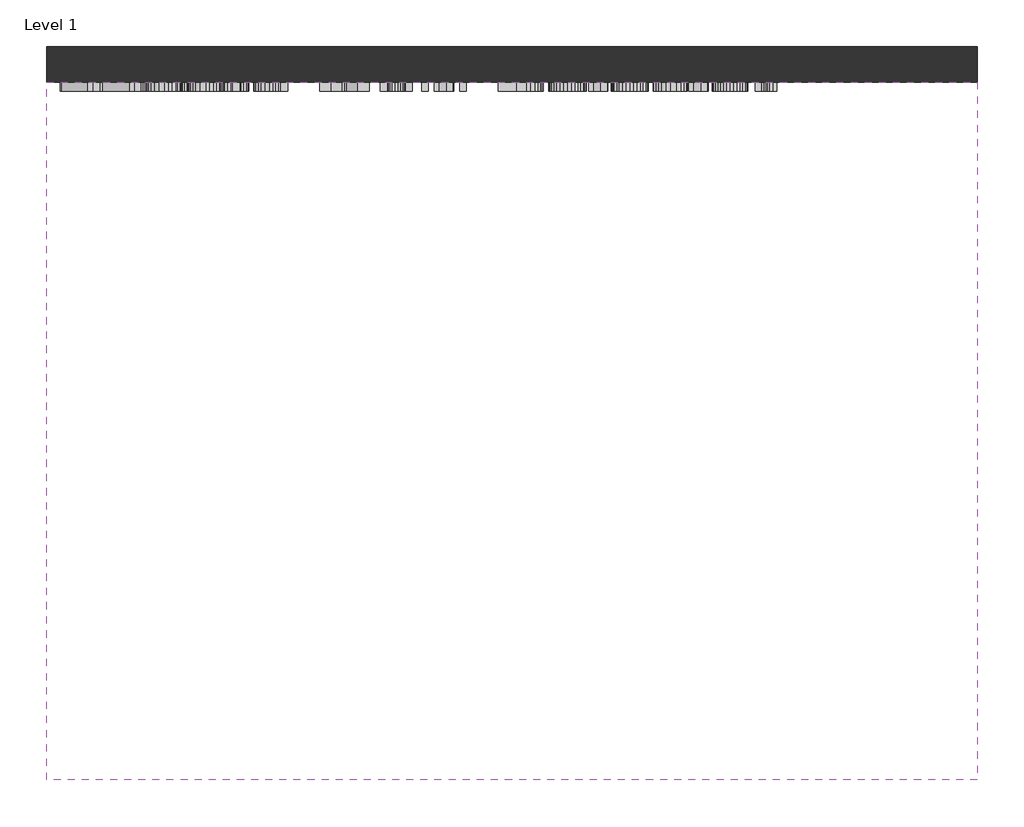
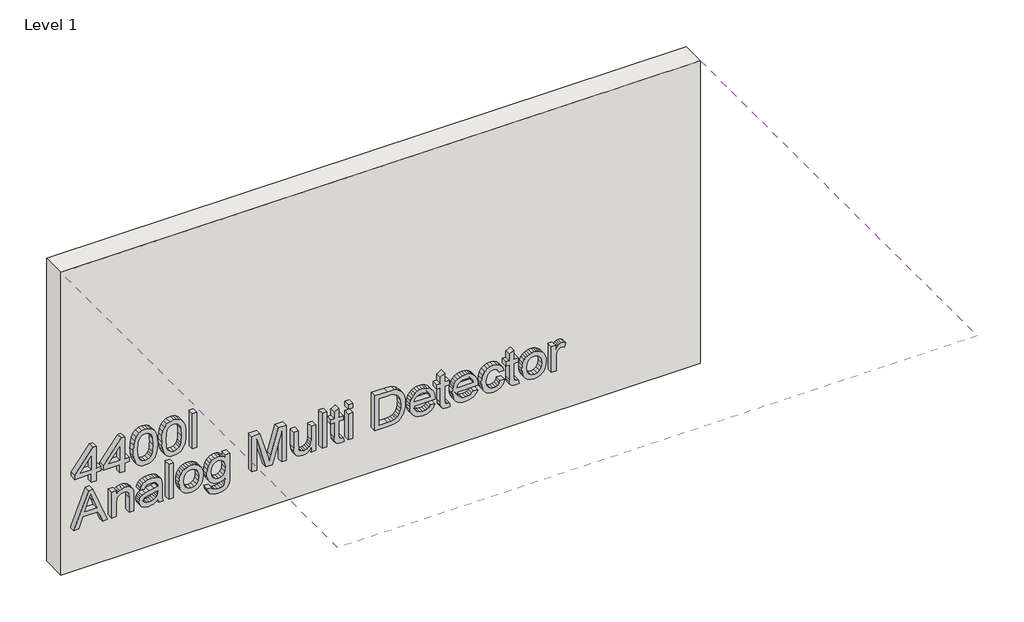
# One storey: 1 covering, 1 proxy, 1 wall.
"""IFC4 building model written with IfcOpenShell, lengths in millimetres."""

import ifcopenshell
import ifcopenshell.guid

model = None  # the IFC model being written
_history = None  # IfcOwnerHistory: only IFC2X3 demands one
_inside = {}  # id of a spatial element -> (the spatial element, [elements in it])
_under = {}  # id of a project, library or spatial element -> (it, [spatial elements below it])
_declared = {}  # id of a project -> (the project, [libraries it declares])
_typed = {}  # id of a type object -> (the type object, [elements of that type])
_made_of = {}  # id of a material, layer set ... -> (it, [elements and type objects made of it])


def new_model(schema):
    """Start an empty IFC model of exactly this schema.

    Asked for "IFC4X3", IfcOpenShell would pick the latest addendum, in which some entities
    have other attributes; the version numbers below select the first issue.
    IFC2X3 requires an IfcOwnerHistory on every rooted entity: one is made here for all.
    """
    global model, _history
    if schema == "IFC4X3":
        model = ifcopenshell.file(schema_version=(4, 3, 0, 0))
    else:
        model = ifcopenshell.file(schema=schema)
    _inside.clear()
    _under.clear()
    _declared.clear()
    _typed.clear()
    _made_of.clear()
    _history = None
    if model.schema == "IFC2X3":
        org = make("IfcOrganization", Name="unknown")
        user = make(
            "IfcPersonAndOrganization",
            ThePerson=make("IfcPerson", FamilyName="unknown"),
            TheOrganization=org,
        )
        app = make(
            "IfcApplication",
            ApplicationDeveloper=org,
            Version="unknown",
            ApplicationFullName="unknown",
            ApplicationIdentifier="unknown",
        )
        _history = make(
            "IfcOwnerHistory",
            OwningUser=user,
            OwningApplication=app,
            ChangeAction="ADDED",
            CreationDate=0,
        )
    return model


def make(cls, **values):
    """One entity of the class cls with the attributes given. An attribute that is None is left unset."""
    return model.create_entity(
        cls, **{name: value for name, value in values.items() if value is not None}
    )


def rooted(cls, **values):
    """An entity with a GlobalId (a new one), such as an element, a storey or a relation."""
    return make(cls, GlobalId=ifcopenshell.guid.new(), OwnerHistory=_history, **values)


def si_unit(unit_type, name, prefix=None):
    """IfcSIUnit, for example si_unit("LENGTHUNIT", "METRE", prefix="MILLI")."""
    return make("IfcSIUnit", UnitType=unit_type, Prefix=prefix, Name=name)


def assignment(units):
    """IfcUnitAssignment: the units of a project."""
    return None if units is None else make("IfcUnitAssignment", Units=units)


def point(xyz):
    """IfcCartesianPoint."""
    return None if xyz is None else make("IfcCartesianPoint", Coordinates=xyz)


def direction(xyz):
    """IfcDirection."""
    return None if xyz is None else make("IfcDirection", DirectionRatios=xyz)


def frame(location, z_axis=None, x_axis=None):
    """IfcAxis2Placement3D, a coordinate frame: its origin and axes. An axis left out is left unset."""
    return make(
        "IfcAxis2Placement3D",
        Location=point(location),
        Axis=direction(z_axis),
        RefDirection=direction(x_axis),
    )


def origin():
    """The frame at (0, 0, 0) with its axes left unset."""
    return frame((0.0, 0.0, 0.0))


def origin_with_axes():
    """The frame at (0, 0, 0) with the z axis (0, 0, 1) and the x axis (1, 0, 0) written out."""
    return frame((0.0, 0.0, 0.0), z_axis=(0.0, 0.0, 1.0), x_axis=(1.0, 0.0, 0.0))


def place(relative_to, where):
    """IfcLocalPlacement: puts the frame where relative to a parent placement (None: the world)."""
    return make(
        "IfcLocalPlacement", PlacementRelTo=relative_to, RelativePlacement=where
    )


def context(
    kind, dimensions, precision=None, world=None, true_north=None, identifier=None
):
    """IfcGeometricRepresentationContext, for example the 3D "Model" context."""
    return make(
        "IfcGeometricRepresentationContext",
        ContextIdentifier=identifier,
        ContextType=kind,
        CoordinateSpaceDimension=dimensions,
        Precision=precision,
        WorldCoordinateSystem=world,
        TrueNorth=true_north,
    )


def project(units=None, contexts=None):
    """IfcProject with its units and contexts."""
    return rooted(
        "IfcProject",
        Name="project",
        RepresentationContexts=contexts,
        UnitsInContext=assignment(units),
    )


def spatial(cls, under=None, at=None, **own):
    """A site, building, storey or space (cls), placed at a placement, below another one or the project."""
    s = rooted(cls, ObjectPlacement=at, **own)
    if under is not None:
        _under.setdefault(under.id(), (under, []))[1].append(s)
    return s


def polyline(points):
    """IfcPolyline through the points."""
    return make("IfcPolyline", Points=[point(p) for p in points])


def outline(outer, holes=None, kind="AREA"):
    """IfcArbitraryClosedProfileDef: a profile drawn as a closed curve; with holes, ...WithVoids."""
    if holes is None:
        return make("IfcArbitraryClosedProfileDef", ProfileType=kind, OuterCurve=outer)
    return make(
        "IfcArbitraryProfileDefWithVoids",
        ProfileType=kind,
        OuterCurve=outer,
        InnerCurves=holes,
    )


def extrude(swept, where, along, depth):
    """IfcExtrudedAreaSolid: the profile swept, set in the frame where, extruded along a direction by depth."""
    return make(
        "IfcExtrudedAreaSolid",
        SweptArea=swept,
        Position=where,
        ExtrudedDirection=direction(along),
        Depth=depth,
    )


def shape(context_of_items, identifier, shape_type, items):
    """IfcShapeRepresentation: the items that make up one representation, for example the "Body"."""
    return make(
        "IfcShapeRepresentation",
        ContextOfItems=context_of_items,
        RepresentationIdentifier=identifier,
        RepresentationType=shape_type,
        Items=items,
    )


def made_of(thing, what):
    """Note that an element or type object is made of a material, layer set ...; save() writes the relation."""
    if what is not None:
        _made_of.setdefault(what.id(), (what, []))[1].append(thing)
    return thing


def element(
    cls,
    number,
    at=None,
    inside=None,
    cuts=None,
    type_object=None,
    material=None,
    context=None,
    identifier="Body",
    shape_type=None,
    held_by="IfcProductDefinitionShape",
    body=None,
    shapes=None,
    **own,
):
    """One element of the class cls, such as IfcWall. Its Tag is "e" and its number.

    at: its placement. inside: the storey or other place that contains it. cuts: it is an
    opening in that element (IfcRelVoidsElement). A single representation is given by context,
    identifier, shape_type and body (its items); several are given by shapes. held_by: the class
    of the entity that holds the representations. save() writes the other relations.
    """
    e = rooted(cls, Tag="e%d" % number, ObjectPlacement=at, **own)
    if body is not None:
        shapes = [shape(context, identifier, shape_type, body)]
    if shapes is not None:
        e.Representation = make(held_by, Representations=shapes)
    if inside is not None:
        _inside.setdefault(inside.id(), (inside, []))[1].append(e)
    if cuts is not None:
        rooted(
            "IfcRelVoidsElement", RelatingBuildingElement=cuts, RelatedOpeningElement=e
        )
    if type_object is not None:
        _typed.setdefault(type_object.id(), (type_object, []))[1].append(e)
    return made_of(e, material)


def aggregate(whole, parts):
    """IfcRelAggregates: a whole, such as a stair, and the parts it consists of."""
    return rooted("IfcRelAggregates", RelatingObject=whole, RelatedObjects=parts)


def save(model, path):
    """Write the relations noted so far, then the file.

    IfcRelAggregates (storeys below a building ...), IfcRelContainedInSpatialStructure (elements
    in a storey), IfcRelDefinesByType, IfcRelAssociatesMaterial and IfcRelDeclares: one each for
    every whole, place, type object, material and project.
    """
    for whole, parts in _under.values():
        aggregate(whole, parts)
    for where, things in _inside.values():
        rooted(
            "IfcRelContainedInSpatialStructure",
            RelatedElements=things,
            RelatingStructure=where,
        )
    for kind, things in _typed.values():
        rooted("IfcRelDefinesByType", RelatedObjects=things, RelatingType=kind)
    for what, things in _made_of.values():
        rooted("IfcRelAssociatesMaterial", RelatedObjects=things, RelatingMaterial=what)
    for by, libraries in _declared.values():
        rooted("IfcRelDeclares", RelatingContext=by, RelatedDefinitions=libraries)
    model.write(path)


model = new_model("IFC4")

# Units and contexts
model_context = context("Model", 3, world=origin())
ifc_project = project(units=[si_unit("LENGTHUNIT", "METRE", prefix="MILLI")], contexts=[model_context])

# Site, building, storey
site = spatial("IfcSite", under=ifc_project)
building = spatial("IfcBuilding", under=site)
storey = spatial("IfcBuildingStorey", under=building, Name="Level 1", Elevation=0.0)

# Proxy
placement = place(None, origin())
element("IfcBuildingElementProxy", 1, Name="300 mm Arial 2", ObjectType="300 mm Arial 2", at=placement, inside=storey, context=model_context, shape_type="SweptSolid", body=[
    extrude(outline(polyline([(751.1294539, -4301.5367168), (751.1294539, -4263.8656005), (821.762797, -4263.8656005), (821.762797, -4226.1944842), (859.4339133, -4226.1944842), (859.4339133, -4263.8656005), (1047.7894948, -4263.8656005), (1047.7894948, -4292.1189377), (859.4339133, -4438.0945134), (821.762797, -4438.0945134), (821.762797, -4301.5367168), (751.1294539, -4301.5367168)]), holes=[polyline([(859.4339133, -4301.5367168), (859.4339133, -4391.741382), (975.8317766, -4301.5367168), (859.4339133, -4301.5367168)])]), frame((0.0, 3097.8550077, 0.0), z_axis=(0.0, 1.0, 0.0), x_axis=(0.0, 0.0, 1.0)), (0.0, 0.0, 1.0), 50.0),
    extrude(outline(polyline([(751.1294539, -4070.8011294), (751.1294539, -4033.1300131), (821.762797, -4033.1300131), (821.762797, -3995.4588968), (859.4339133, -3995.4588968), (859.4339133, -4033.1300131), (1047.7894948, -4033.1300131), (1047.7894948, -4061.3833504), (859.4339133, -4207.3589261), (821.762797, -4207.3589261), (821.762797, -4070.8011294), (751.1294539, -4070.8011294)]), holes=[polyline([(859.4339133, -4070.8011294), (859.4339133, -4161.0057947), (975.8317766, -4070.8011294), (859.4339133, -4070.8011294)])]), frame((0.0, 3097.8550077, 0.0), z_axis=(0.0, 1.0, 0.0), x_axis=(0.0, 0.0, 1.0)), (0.0, 0.0, 1.0), 50.0),
    extrude(outline(polyline([(899.385898, -3962.4966701), (859.9443495, -3960.6204719), (826.0854104, -3954.9918774), (797.8090806, -3945.6108865), (775.11536, -3932.4774993), (762.5613869, -3918.792289), (753.5942633, -3902.752634), (748.2139891, -3884.3585343), (746.4205644, -3863.6099898), (750.5500398, -3833.1585576), (762.9384659, -3808.4644787), (783.7237987, -3789.3622061), (813.0439937, -3775.6861929), (851.4232828, -3767.4640303), (899.385898, -3764.7233095), (939.3470797, -3766.4339607), (970.203182, -3771.5659146), (994.5017878, -3779.4018011), (1014.7904798, -3789.2242503), (1030.9313024, -3802.2288789), (1042.7862997, -3819.6113031), (1050.0703632, -3840.3966359), (1052.4983843, -3863.6099898), (1048.3965001, -3893.895875), (1036.0908474, -3918.5347716), (1015.3882881, -3937.6646354), (986.0956842, -3951.423422), (947.6244246, -3959.728358), (899.385898, -3962.4966701)]), holes=[polyline([(899.4594744, -3924.8255538), (957.9527116, -3920.263817), (979.0323499, -3914.5616461), (994.6673347, -3906.5786068), (1009.7872847, -3887.632684), (1014.827268, -3864.0514482), (1009.106703, -3839.1458371), (991.9450079, -3819.4641503), (977.5838146, -3811.9961458), (957.3824945, -3806.6618569), (899.4594744, -3802.3944258), (840.2948525, -3806.8090097), (820.0314523, -3812.3272396), (805.9806594, -3820.0527615), (789.5639253, -3839.7712365), (784.0916807, -3863.6099898), (789.5455312, -3887.448743), (805.907083, -3907.167218), (819.9348833, -3914.8927399), (840.202882, -3920.4109698), (899.4594744, -3924.8255538)])]), frame((0.0, 3097.8550077, 0.0), z_axis=(0.0, 1.0, 0.0), x_axis=(0.0, 0.0, 1.0)), (0.0, 0.0, 1.0), 50.0),
    extrude(outline(polyline([(899.385898, -3731.7610827), (859.9443495, -3729.8848845), (826.0854104, -3724.25629), (797.8090806, -3714.8752991), (775.11536, -3701.7419119), (762.5613869, -3688.0567017), (753.5942633, -3672.0170467), (748.2139891, -3653.6229469), (746.4205644, -3632.8744024), (750.5500398, -3602.4229702), (762.9384659, -3577.7288913), (783.7237987, -3558.6266187), (813.0439937, -3544.9506055), (851.4232828, -3536.7284429), (899.385898, -3533.9877221), (939.3470797, -3535.6983734), (970.203182, -3540.8303272), (994.5017878, -3548.6662137), (1014.7904798, -3558.488663), (1030.9313024, -3571.4932915), (1042.7862997, -3588.8757158), (1050.0703632, -3609.6610485), (1052.4983843, -3632.8744024), (1048.3965001, -3663.1602876), (1036.0908474, -3687.7991843), (1015.3882881, -3706.929048), (986.0956842, -3720.6878346), (947.6244246, -3728.9927707), (899.385898, -3731.7610827)]), holes=[polyline([(899.4594744, -3694.0899664), (957.9527116, -3689.5282296), (979.0323499, -3683.8260587), (994.6673347, -3675.8430194), (1009.7872847, -3656.8970967), (1014.827268, -3633.3158608), (1009.106703, -3608.4102497), (991.9450079, -3588.728563), (977.5838146, -3581.2605585), (957.3824945, -3575.9262695), (899.4594744, -3571.6588384), (840.2948525, -3576.0734223), (820.0314523, -3581.5916523), (805.9806594, -3589.3171742), (789.5639253, -3609.0356491), (784.0916807, -3632.8744024), (789.5455312, -3656.7131557), (805.907083, -3676.4316306), (819.9348833, -3684.1571525), (840.202882, -3689.6753824), (899.4594744, -3694.0899664)])]), frame((0.0, 3097.8550077, 0.0), z_axis=(0.0, 1.0, 0.0), x_axis=(0.0, 0.0, 1.0)), (0.0, 0.0, 1.0), 50.0),
    extrude(outline(polyline([(-3444.5188209, 3097.8550077), (-3482.1899372, 3097.8550077), (-3482.1899372, 3147.8550077), (-3444.5188209, 3147.8550077), (-3444.5188209, 3097.8550077)])), frame((0.0, 0.0, 751.1294539), z_axis=(0.0, 0.0, 1.0), x_axis=(1.0, 0.0, 0.0)), (0.0, 0.0, 1.0), 301.3689304),
    extrude(outline(polyline([(385.2050004, -4444.9371185), (385.2050004, -4405.1322867), (479.3827911, -4370.6985319), (479.3827911, -4246.5751467), (385.2050004, -4212.0678156), (385.2050004, -4172.2629837), (686.5739308, -4292.5603961), (686.5739308, -4324.6397061), (385.2050004, -4444.9371185)]), holes=[polyline([(517.0539074, -4356.8661689), (597.6200644, -4327.3620329), (648.9028145, -4308.6000511), (591.1453413, -4287.4836246), (517.0539074, -4260.3339334), (517.0539074, -4356.8661689)])]), frame((0.0, 3097.8550077, 0.0), z_axis=(0.0, 1.0, 0.0), x_axis=(0.0, 0.0, 1.0)), (0.0, 0.0, 1.0), 50.0),
    extrude(outline(polyline([(385.2050004, -4136.725583), (385.2050004, -4099.0544667), (502.6329332, -4099.0544667), (537.3425995, -4094.7594444), (549.7172301, -4089.3906665), (558.7717257, -4081.8743775), (569.8633678, -4063.0664105), (573.5605819, -4041.0026878), (571.91431, -4027.1059455), (566.9754942, -4015.1405836), (559.2775634, -4005.8055779), (549.3539466, -3999.7999044), (516.0238378, -3995.4588968), (385.2050004, -3995.4588968), (385.2050004, -3957.7877805), (521.1006094, -3957.7877805), (557.5209269, -3959.7743433), (585.2224411, -3971.0683205), (595.7622603, -3981.1666813), (604.0579993, -3995.3485322), (609.4382735, -4012.3538775), (611.2316982, -4030.9227212), (609.0060121, -4051.9011919), (602.3289539, -4070.2493064), (591.2005236, -4085.9670647), (575.6207211, -4099.0544667), (606.5228087, -4099.0544667), (606.5228087, -4136.725583), (385.2050004, -4136.725583)])), frame((0.0, 3097.8550077, 0.0), z_axis=(0.0, 1.0, 0.0), x_axis=(0.0, 0.0, 1.0)), (0.0, 0.0, 1.0), 50.0),
    extrude(outline(polyline([(413.4583376, -3764.7233095), (385.2050004, -3755.3055304), (385.2050004, -3717.6344141), (416.8796401, -3725.1392068), (482.3258471, -3727.0521931), (529.1940133, -3727.0521931), (562.15624, -3728.8916031), (576.2737116, -3733.4349458), (587.7240387, -3740.4430978), (596.9854679, -3751.0105081), (604.5362459, -3766.2316256), (609.5578351, -3786.4191501), (611.2316982, -3811.8857812), (609.3371059, -3838.4376642), (603.6533291, -3861.5866388), (594.4746733, -3880.5141674), (582.0954442, -3894.4017128), (565.9086364, -3904.1597827), (545.3072447, -3910.6988851), (540.5983551, -3873.0277688), (556.2609311, -3865.5413702), (566.3133066, -3854.8543983), (571.7487631, -3839.1826253), (573.5605819, -3816.7418236), (570.8382551, -3792.4984001), (562.6712748, -3775.0975817), (551.6716032, -3767.3168775), (534.859396, -3764.7233095), (526.4716865, -3764.9440387), (519.4819286, -3791.7626361), (513.5222403, -3830.279881), (507.8568576, -3862.8742258), (495.4960225, -3889.2513648), (486.004667, -3899.8555633), (473.8645612, -3908.1972876), (459.6827103, -3913.6051529), (444.0661196, -3915.4077747), (418.7374442, -3910.6345058), (398.3751758, -3896.3146991), (384.9658771, -3873.0921482), (380.4961108, -3841.6106464), (382.3539149, -3820.7425403), (387.9273271, -3801.2539916), (398.0256879, -3782.7219361), (413.4583376, -3764.7233095)]), holes=[polyline([(488.8005702, -3764.7233095), (478.1319923, -3764.9440387), (461.2094206, -3766.4339607), (448.9957383, -3770.903727), (437.140741, -3780.9836936), (427.180336, -3795.4782443), (420.4205043, -3813.3573092), (418.1672271, -3833.590819), (420.2089722, -3852.6746975), (426.3342074, -3866.5162575), (435.5128632, -3874.9315582), (446.71487, -3877.7366584), (461.2094206, -3872.5863104), (471.1422344, -3857.9078188), (477.2490756, -3825.4974151), (488.8005702, -3764.7233095)])]), frame((0.0, 3097.8550077, 0.0), z_axis=(0.0, 1.0, 0.0), x_axis=(0.0, 0.0, 1.0)), (0.0, 0.0, 1.0), 50.0),
    extrude(outline(polyline([(-3637.5832919, 3097.8550077), (-3675.2544082, 3097.8550077), (-3675.2544082, 3147.8550077), (-3637.5832919, 3147.8550077), (-3637.5832919, 3097.8550077)])), frame((0.0, 0.0, 385.2050004), z_axis=(0.0, 0.0, 1.0), x_axis=(1.0, 0.0, 0.0)), (0.0, 0.0, 1.0), 301.3689304),
    extrude(outline(polyline([(495.8639045, -3590.4943965), (469.5419478, -3588.7860445), (446.4941408, -3583.6609885), (426.7204835, -3575.1192284), (410.220976, -3563.1607643), (397.2163475, -3548.4339882), (387.9273271, -3531.5872921), (382.3539149, -3512.6206759), (380.4961108, -3491.5341398), (383.8714281, -3464.9454686), (393.99738, -3440.5089071), (410.2301731, -3419.9351065), (431.9260137, -3404.9347182), (460.8967209, -3395.7744565), (498.9541133, -3392.7210359), (523.8344325, -3394.447782), (545.8682647, -3399.6280204), (565.05561, -3408.261751), (581.3964684, -3420.3489738), (594.4493814, -3435.1585233), (603.7728907, -3451.9592342), (609.3669963, -3470.7511064), (611.2316982, -3491.5341398), (609.7003894, -3510.3605009), (605.106463, -3527.69694), (597.449919, -3543.5434569), (586.7307573, -3557.9000518), (569.9599369, -3572.1600776), (549.2251879, -3582.3458103), (524.5265105, -3588.45725), (495.8639045, -3590.4943965)]), holes=[polyline([(495.9374809, -3552.8232802), (530.0125507, -3548.4638786), (554.2467771, -3535.3856737), (568.7321307, -3515.7039869), (573.5605819, -3491.5341398), (568.7137366, -3467.6126131), (554.1732007, -3447.9401234), (530.2148858, -3434.779145), (497.1147033, -3430.3921522), (462.2762784, -3434.7515539), (437.6649729, -3447.8297588), (423.0416636, -3467.4746574), (418.1672271, -3491.5341398), (423.0140724, -3515.7039869), (437.5546083, -3535.3856737), (461.844017, -3548.4638786), (495.9374809, -3552.8232802)])]), frame((0.0, 3097.8550077, 0.0), z_axis=(0.0, 1.0, 0.0), x_axis=(0.0, 0.0, 1.0)), (0.0, 0.0, 1.0), 50.0),
    extrude(outline(polyline([(366.3694422, -3359.7588092), (349.784862, -3358.6206742), (335.4213694, -3354.3969291), (323.2789643, -3347.0875737), (313.3576467, -3336.6926081), (300.141486, -3309.0922614), (295.7360991, -3274.0423043), (298.8630961, -3243.9587541), (308.244087, -3219.043946), (323.005352, -3199.7209442), (342.2731715, -3186.412813), (371.3266521, -3178.6872911), (415.4449004, -3176.1121172), (606.5228087, -3176.1121172), (606.5228087, -3213.7832335), (578.2694714, -3213.7832335), (592.6904456, -3226.516549), (602.9911415, -3240.8777424), (609.171559, -3256.8668136), (611.2316982, -3274.4837627), (607.5896664, -3300.2814876), (596.6635712, -3322.4923631), (579.0512207, -3340.5001867), (555.3504231, -3353.6887562), (527.3821944, -3361.7729631), (496.9675505, -3364.4676987), (474.7934632, -3362.9662803), (454.2564509, -3358.4620251), (435.3565134, -3350.9549332), (418.0936507, -3340.4450044), (403.7048662, -3327.1989533), (393.427163, -3311.4834943), (387.260541, -3293.2986275), (385.2050004, -3272.6443527), (386.9708339, -3255.7493721), (392.2683347, -3240.3075253), (401.0975026, -3226.3188125), (413.4583376, -3213.7832335), (369.5332274, -3216.3584074), (354.3029128, -3223.3481654), (342.8985709, -3234.7525072), (335.7800543, -3251.1968324), (333.4072154, -3273.3065403), (335.5041428, -3294.0366907), (341.7949249, -3309.8740106), (349.8883288, -3317.9306263), (361.6605527, -3322.0876929), (366.3694422, -3359.7588092)]), holes=[polyline([(499.5427245, -3326.7965824), (531.7415961, -3322.7222893), (554.9089647, -3310.49941), (568.8976776, -3292.4639952), (573.5605819, -3270.9520955), (568.8241012, -3249.0447227), (554.6146591, -3230.5586525), (531.0978026, -3217.9770882), (498.4390785, -3213.7832335), (464.5755408, -3217.8575266), (441.1230636, -3230.0804059), (427.4378534, -3248.2997617), (422.8761167, -3270.3634843), (427.4654446, -3292.5927539), (441.2334282, -3310.7201392), (464.9894081, -3322.7774716), (499.5427245, -3326.7965824)])]), frame((0.0, 3097.8550077, 0.0), z_axis=(0.0, 1.0, 0.0), x_axis=(0.0, 0.0, 1.0)), (0.0, 0.0, 1.0), 50.0),
    extrude(outline(polyline([(385.2050004, -2997.1743147), (385.2050004, -2959.5031984), (648.9028145, -2959.5031984), (385.2050004, -2883.7930838), (385.2050004, -2832.7310629), (648.9028145, -2757.0209483), (385.2050004, -2757.0209483), (385.2050004, -2719.349832), (686.5739308, -2719.349832), (686.5739308, -2784.1706395), (477.8376867, -2844.7975923), (429.7922982, -2858.2620733), (474.1588668, -2870.6964848), (686.5739308, -2932.3535072), (686.5739308, -2997.1743147), (385.2050004, -2997.1743147)])), frame((0.0, 3097.8550077, 0.0), z_axis=(0.0, 1.0, 0.0), x_axis=(0.0, 0.0, 1.0)), (0.0, 0.0, 1.0), 50.0),
    extrude(outline(polyline([(385.2050004, -2516.8675818), (385.2050004, -2479.1964655), (606.5228087, -2479.1964655), (606.5228087, -2516.8675818), (491.3757442, -2516.8675818), (467.1231236, -2518.3942921), (449.4004085, -2522.9744229), (436.4601593, -2531.2241767), (426.5549366, -2543.7597557), (420.2641545, -2558.9624791), (418.1672271, -2575.2136663), (420.2181693, -2590.5819366), (426.3709956, -2603.2830625), (436.1106714, -2612.6916445), (448.9221619, -2618.1822833), (487.3290422, -2620.4631517), (606.5228087, -2620.4631517), (606.5228087, -2658.134268), (469.5971301, -2658.134268), (434.5747641, -2655.926976), (406.8364617, -2644.7065751), (396.4621894, -2634.6082144), (388.0009035, -2620.2792107), (382.372309, -2603.200289), (380.4961108, -2584.8521745), (383.1678538, -2564.4899061), (391.1830828, -2546.3717178), (404.5417977, -2530.4976097), (423.2439987, -2516.8675818), (385.2050004, -2516.8675818)])), frame((0.0, 3097.8550077, 0.0), z_axis=(0.0, 1.0, 0.0), x_axis=(0.0, 0.0, 1.0)), (0.0, 0.0, 1.0), 50.0),
    extrude(outline(polyline([(-2389.7275643, 3097.8550077), (-2427.3986806, 3097.8550077), (-2427.3986806, 3147.8550077), (-2389.7275643, 3147.8550077), (-2389.7275643, 3097.8550077)])), frame((0.0, 0.0, 385.2050004), z_axis=(0.0, 0.0, 1.0), x_axis=(1.0, 0.0, 0.0)), (0.0, 0.0, 1.0), 301.3689304),
    extrude(outline(polyline([(416.6221227, -2253.1697677), (418.1672271, -2269.5773047), (420.7056129, -2282.4163863), (427.5850062, -2288.8543212), (447.0091756, -2290.840884), (568.8516924, -2290.840884), (568.8516924, -2253.1697677), (606.5228087, -2253.1697677), (606.5228087, -2290.840884), (682.4536525, -2290.840884), (660.3071564, -2328.5120003), (606.5228087, -2328.5120003), (606.5228087, -2356.7653375), (568.8516924, -2356.7653375), (568.8516924, -2328.5120003), (445.9055296, -2328.5120003), (418.9213852, -2327.3715661), (403.1576417, -2323.9502635), (393.9789859, -2317.7330578), (386.7501047, -2308.2049142), (382.0596093, -2294.722039), (380.4961108, -2276.640639), (384.1013544, -2248.4608781), (416.6221227, -2253.1697677)])), frame((0.0, 3097.8550077, 0.0), z_axis=(0.0, 1.0, 0.0), x_axis=(0.0, 0.0, 1.0)), (0.0, 0.0, 1.0), 50.0),
    extrude(outline(polyline([(-2177.8275351, 3097.8550077), (-2215.4986514, 3097.8550077), (-2215.4986514, 3147.8550077), (-2177.8275351, 3147.8550077), (-2177.8275351, 3097.8550077)])), frame((0.0, 0.0, 648.9028145), z_axis=(0.0, 0.0, 1.0), x_axis=(1.0, 0.0, 0.0)), (0.0, 0.0, 1.0), 37.6711163),
    extrude(outline(polyline([(-2177.8275351, 3097.8550077), (-2215.4986514, 3097.8550077), (-2215.4986514, 3147.8550077), (-2177.8275351, 3147.8550077), (-2177.8275351, 3097.8550077)])), frame((0.0, 0.0, 385.2050004), z_axis=(0.0, 0.0, 1.0), x_axis=(1.0, 0.0, 0.0)), (0.0, 0.0, 1.0), 221.3178083),
    extrude(outline(polyline([(385.2050004, -1998.8897326), (385.2050004, -1889.9230856), (390.3553483, -1841.4730269), (396.7105098, -1821.9292959), (405.4752983, -1805.4573795), (417.2935074, -1791.1099817), (432.8089305, -1777.9398063), (452.4630261, -1766.4986763), (476.6972526, -1757.3384146), (505.1621219, -1751.323544), (537.5081464, -1749.3185871), (575.5839329, -1752.2800371), (609.171559, -1761.1643873), (637.7192019, -1776.0084258), (660.6750383, -1796.8489409), (673.8636079, -1817.1192388), (682.2329233, -1841.1419331), (686.5739308, -1894.9262808), (686.5739308, -1998.8897326), (385.2050004, -1998.8897326)]), holes=[polyline([(422.8761167, -1961.2186163), (648.9028145, -1961.2186163), (648.9028145, -1895.5884684), (647.3944983, -1863.8402522), (642.8695498, -1842.1720027), (630.2879855, -1820.8808322), (609.4658646, -1803.0661466), (579.1523882, -1791.0088142), (538.0967576, -1786.9897034), (507.1118965, -1789.0406455), (481.1118365, -1795.1934719), (460.004607, -1805.0251182), (443.6982376, -1818.1125202), (434.8874638, -1830.2894142), (428.3207702, -1846.0715518), (424.23728, -1866.9856432), (422.8761167, -1894.5583988), (422.8761167, -1961.2186163)])]), frame((0.0, 3097.8550077, 0.0), z_axis=(0.0, 1.0, 0.0), x_axis=(0.0, 0.0, 1.0)), (0.0, 0.0, 1.0), 50.0),
    extrude(outline(polyline([(451.1294539, -1547.2777953), (436.2486272, -1557.8360086), (426.0399018, -1571.558007), (420.1353958, -1588.4437906), (418.1672271, -1608.4933593), (422.4162642, -1635.1556069), (435.1633753, -1657.0169945), (455.8935257, -1672.1645356), (484.0916807, -1678.685244), (484.0916807, -1509.3859498), (494.2452237, -1509.1652206), (520.4982026, -1510.9517476), (543.6333816, -1516.3113284), (563.6507606, -1525.2439631), (580.5503398, -1537.7496517), (593.9734341, -1553.0696375), (603.5613586, -1570.445164), (609.3141133, -1589.8762311), (611.2316982, -1611.3628389), (609.3095148, -1633.5645173), (603.5429645, -1653.5956919), (593.9320474, -1671.4563628), (580.4767634, -1687.1465299), (563.540396, -1699.9258307), (543.4862288, -1709.0539027), (520.3142616, -1714.5307459), (494.0244945, -1716.3563603), (468.5969509, -1714.54914), (446.172244, -1709.1274791), (426.7503739, -1700.0913776), (410.3313406, -1687.4408355), (397.2784276, -1671.7092817), (387.9549183, -1653.430145), (382.3608127, -1632.6034256), (380.4961108, -1609.2291233), (384.8187243, -1573.5721609), (397.7865646, -1544.8865624), (418.5902914, -1523.6505742), (446.4205644, -1510.342443), (451.1294539, -1547.2777953)]), holes=[polyline([(521.762797, -1678.685244), (542.9987851, -1672.4956294), (559.4707015, -1657.8999113), (570.0381118, -1636.9030464), (573.5605819, -1611.5099917), (569.1459979, -1583.8820538), (555.9022461, -1561.9194987), (541.6652129, -1551.9315026), (521.762797, -1546.8363369), (521.762797, -1678.685244)])]), frame((0.0, 3097.8550077, 0.0), z_axis=(0.0, 1.0, 0.0), x_axis=(0.0, 0.0, 1.0)), (0.0, 0.0, 1.0), 50.0),
    extrude(outline(polyline([(416.6221227, -1391.4429822), (418.1672271, -1407.8505192), (420.7056129, -1420.6896008), (427.5850062, -1427.1275357), (447.0091756, -1429.1140985), (568.8516924, -1429.1140985), (568.8516924, -1391.4429822), (606.5228087, -1391.4429822), (606.5228087, -1429.1140985), (682.4536525, -1429.1140985), (660.3071564, -1466.7852148), (606.5228087, -1466.7852148), (606.5228087, -1495.038552), (568.8516924, -1495.038552), (568.8516924, -1466.7852148), (445.9055296, -1466.7852148), (418.9213852, -1465.6447806), (403.1576417, -1462.223478), (393.9789859, -1456.0062723), (386.7501047, -1446.4781286), (382.0596093, -1432.9952535), (380.4961108, -1414.9138535), (384.1013544, -1386.7340926), (416.6221227, -1391.4429822)])), frame((0.0, 3097.8550077, 0.0), z_axis=(0.0, 1.0, 0.0), x_axis=(0.0, 0.0, 1.0)), (0.0, 0.0, 1.0), 50.0),
    extrude(outline(polyline([(451.1294539, -1198.8199695), (436.2486272, -1209.3781828), (426.0399018, -1223.1001812), (420.1353958, -1239.9859648), (418.1672271, -1260.0355335), (422.4162642, -1286.6977811), (435.1633753, -1308.5591687), (455.8935257, -1323.7067098), (484.0916807, -1330.2274182), (484.0916807, -1160.928124), (494.2452237, -1160.7073948), (520.4982026, -1162.4939217), (543.6333816, -1167.8535026), (563.6507606, -1176.7861372), (580.5503398, -1189.2918258), (593.9734341, -1204.6118117), (603.5613586, -1221.9873381), (609.3141133, -1241.4184053), (611.2316982, -1262.9050131), (609.3095148, -1285.1066915), (603.5429645, -1305.1378661), (593.9320474, -1322.998537), (580.4767634, -1338.6887041), (563.540396, -1351.4680049), (543.4862288, -1360.5960769), (520.3142616, -1366.0729201), (494.0244945, -1367.8985345), (468.5969509, -1366.0913142), (446.172244, -1360.6696533), (426.7503739, -1351.6335518), (410.3313406, -1338.9830097), (397.2784276, -1323.2514558), (387.9549183, -1304.9723192), (382.3608127, -1284.1455998), (380.4961108, -1260.7712975), (384.8187243, -1225.1143351), (397.7865646, -1196.4287365), (418.5902914, -1175.1927484), (446.4205644, -1161.8846172), (451.1294539, -1198.8199695)]), holes=[polyline([(521.762797, -1330.2274182), (542.9987851, -1324.0378036), (559.4707015, -1309.4420854), (570.0381118, -1288.4452206), (573.5605819, -1263.0521659), (569.1459979, -1235.424228), (555.9022461, -1213.4616729), (541.6652129, -1203.4736767), (521.762797, -1198.3785111), (521.762797, -1330.2274182)])]), frame((0.0, 3097.8550077, 0.0), z_axis=(0.0, 1.0, 0.0), x_axis=(0.0, 0.0, 1.0)), (0.0, 0.0, 1.0), 50.0),
    extrude(outline(polyline([(465.2561225, -981.7695923), (444.3788193, -988.1983302), (429.7187218, -999.8325983), (421.0551008, -1015.826268), (418.1672271, -1035.3332108), (422.7933432, -1059.3651022), (436.6716915, -1078.3386161), (460.7771592, -1090.67186), (496.0846337, -1094.7829413), (530.9230587, -1090.5798895), (554.9457529, -1077.9707341), (568.9068747, -1058.6477323), (573.5605819, -1034.3031413), (571.1969401, -1017.8128308), (564.1060146, -1003.9528767), (552.3245937, -993.3118899), (535.8894656, -986.4784819), (540.5983551, -948.8073656), (570.5807377, -959.0620762), (592.8375984, -977.3182202), (606.6331733, -1002.7664572), (611.2316982, -1034.5974468), (607.883972, -1061.2413003), (597.8407936, -1085.8434088), (581.0929657, -1106.4080123), (557.6312915, -1120.9393511), (528.5778109, -1129.575381), (495.0545641, -1132.4540576), (468.9970226, -1130.7686982), (446.1538499, -1125.71262), (426.5250462, -1117.2858231), (410.1106114, -1105.4883073), (397.1542674, -1090.9132825), (387.899736, -1074.1539584), (382.3470171, -1055.2103349), (380.4961108, -1034.0824121), (385.8028086, -1001.4512791), (401.7229019, -974.338376), (427.0423803, -954.601507), (460.547233, -944.098476), (465.2561225, -981.7695923)])), frame((0.0, 3097.8550077, 0.0), z_axis=(0.0, 1.0, 0.0), x_axis=(0.0, 0.0, 1.0)), (0.0, 0.0, 1.0), 50.0),
    extrude(outline(polyline([(416.6221227, -831.0851271), (418.1672271, -847.4926641), (420.7056129, -860.3317457), (427.5850062, -866.7696806), (447.0091756, -868.7562434), (568.8516924, -868.7562434), (568.8516924, -831.0851271), (606.5228087, -831.0851271), (606.5228087, -868.7562434), (682.4536525, -868.7562434), (660.3071564, -906.4273597), (606.5228087, -906.4273597), (606.5228087, -934.680697), (568.8516924, -934.680697), (568.8516924, -906.4273597), (445.9055296, -906.4273597), (418.9213852, -905.2869255), (403.1576417, -901.865623), (393.9789859, -895.6484173), (386.7501047, -886.1202736), (382.0596093, -872.6373985), (380.4961108, -854.5559984), (384.1013544, -826.3762376), (416.6221227, -831.0851271)])), frame((0.0, 3097.8550077, 0.0), z_axis=(0.0, 1.0, 0.0), x_axis=(0.0, 0.0, 1.0)), (0.0, 0.0, 1.0), 50.0),
    extrude(outline(polyline([(495.8639045, -802.8317899), (469.5419478, -801.1234379), (446.4941408, -795.9983818), (426.7204835, -787.4566218), (410.220976, -775.4981576), (397.2163475, -760.7713815), (387.9273271, -743.9246854), (382.3539149, -724.9580693), (380.4961108, -703.8715332), (383.8714281, -677.282862), (393.99738, -652.8463005), (410.2301731, -632.2724999), (431.9260137, -617.2721115), (460.8967209, -608.1118498), (498.9541133, -605.0584293), (523.8344325, -606.7851754), (545.8682647, -611.9654137), (565.05561, -620.5991443), (581.3964684, -632.6863671), (594.4493814, -647.4959167), (603.7728907, -664.2966276), (609.3669963, -683.0884997), (611.2316982, -703.8715332), (609.7003894, -722.6978943), (605.106463, -740.0343333), (597.449919, -755.8808503), (586.7307573, -770.2374451), (569.9599369, -784.497471), (549.2251879, -794.6832037), (524.5265105, -800.7946433), (495.8639045, -802.8317899)]), holes=[polyline([(495.9374809, -765.1606736), (530.0125507, -760.8012719), (554.2467771, -747.723067), (568.7321307, -728.0413803), (573.5605819, -703.8715332), (568.7137366, -679.9500064), (554.1732007, -660.2775168), (530.2148858, -647.1165384), (497.1147033, -642.7295456), (462.2762784, -647.0889472), (437.6649729, -660.1671522), (423.0416636, -679.8120507), (418.1672271, -703.8715332), (423.0140724, -728.0413803), (437.5546083, -747.723067), (461.844017, -760.8012719), (495.9374809, -765.1606736)])]), frame((0.0, 3097.8550077, 0.0), z_axis=(0.0, 1.0, 0.0), x_axis=(0.0, 0.0, 1.0)), (0.0, 0.0, 1.0), 50.0),
    extrude(outline(polyline([(385.2050004, -562.6784234), (385.2050004, -525.0073071), (501.5292872, -525.0073071), (524.4851237, -523.4805969), (545.5279739, -518.900466), (557.2634095, -513.4466154), (566.1293656, -505.3256204), (571.7027778, -495.2732449), (573.5605819, -484.0252529), (571.6292014, -470.781501), (565.83506, -457.5377492), (599.6066272, -444.956185), (608.3254304, -464.0124723), (611.2316982, -482.7744541), (609.4106823, -495.0617127), (603.9476347, -506.3189018), (592.764022, -517.5393026), (573.7813111, -529.7161967), (606.5228087, -529.7161967), (606.5228087, -562.6784234), (385.2050004, -562.6784234)])), frame((0.0, 3097.8550077, 0.0), z_axis=(0.0, 1.0, 0.0), x_axis=(0.0, 0.0, 1.0)), (0.0, 0.0, 1.0), 50.0),
])

# Covering
element("IfcCovering", 2, ObjectType="Generic", at=placement, inside=storey, context=model_context, shape_type="SweptSolid", body=[
    extrude(outline(polyline([(677.4253408, 3147.8550077), (677.4253408, -752.1449923), (-4522.5746592, -752.1449923), (-4522.5746592, 3147.8550077), (677.4253408, 3147.8550077)])), frame((0.0, 0.0, 2600.0), z_axis=(0.0, 0.0, 1.0), x_axis=(1.0, 0.0, 0.0)), (0.0, 0.0, 1.0), 36.0),
])

# Wall
element("IfcWall", 3, ObjectType="Generic - 200mm", at=placement, inside=storey, context=model_context, shape_type="SweptSolid", body=[
    extrude(outline(polyline([(677.4253408, 3147.8550077), (-4522.5746592, 3147.8550077), (-4522.5746592, 3347.8550077), (677.4253408, 3347.8550077), (677.4253408, 3147.8550077)])), origin_with_axes(), (0.0, 0.0, 1.0), 2600.0),
])

save(model, "model.ifc")
